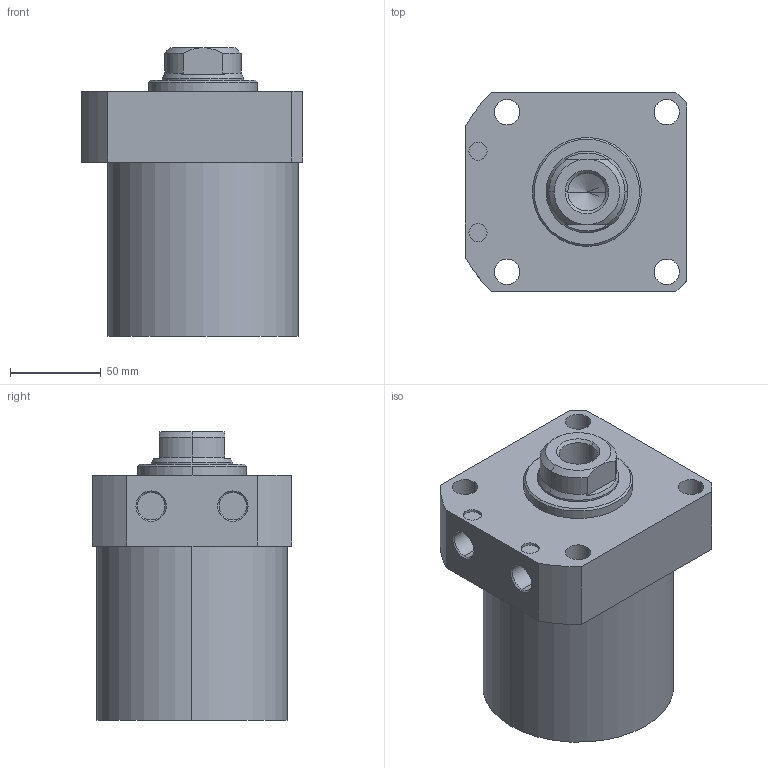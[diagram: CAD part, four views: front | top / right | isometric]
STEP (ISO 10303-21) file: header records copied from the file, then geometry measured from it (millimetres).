
FILE_DESCRIPTION (( 'STEP AP203' ), '1' );
FILE_NAME ('CLLR-105CA-075.STEP', '2019-12-19T01:35:59', ( '' ), ( '' ), 'SwSTEP 2.0', 'SolidWorks 2015', '' );
FILE_SCHEMA (( 'CONFIG_CONTROL_DESIGN' ));
Length unit declared in the file: millimetre
Products named in the file (1): CLLR-105CA-075
Bounding box: 122 x 110 x 159 mm (x, y, z)
Volume: 1333411 mm3; surface area: 89310.9 mm2
Topology: 1 solids, 1 shells, 63 faces, 146 edges, 91 vertices
Faces by surface type: cylinder 29, plane 19, cone 15
Entity records: 1923 total; most frequent: CARTESIAN_POINT 355, DIRECTION 336, ORIENTED_EDGE 288, EDGE_CURVE 144, AXIS2_PLACEMENT_3D 136, VERTEX_POINT 91, EDGE_LOOP 79, CIRCLE 72
